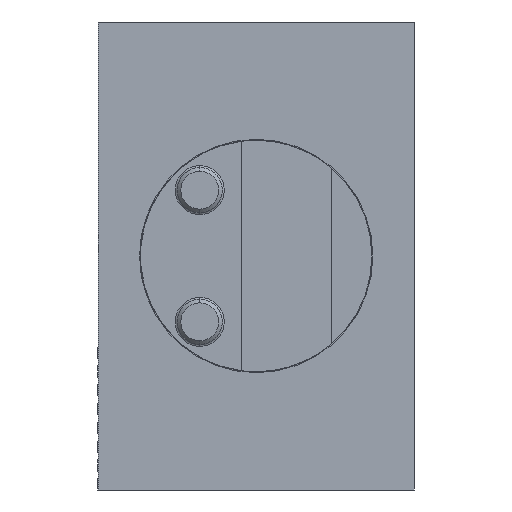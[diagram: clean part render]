
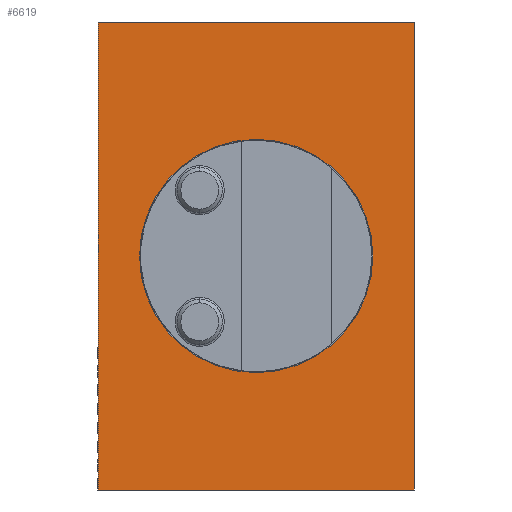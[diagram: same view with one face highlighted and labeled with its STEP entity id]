
A CAD part, front view. The second image highlights one B-rep face of the part: STEP entity #6619.
In plain terms, the highlighted planar face has unit normal (0, -1, 0).
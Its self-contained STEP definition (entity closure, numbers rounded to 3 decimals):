
#3750 = CIRCLE ( 'NONE', #3759, 31. ) ;
#3759 = AXIS2_PLACEMENT_3D ( 'NONE', #3842, #3994, #4045 ) ;
#3775 = DIRECTION ( 'NONE',  ( -1., 0., 0. ) ) ;
#3776 = VECTOR ( 'NONE', #3775, 1000. ) ;
#3777 = CARTESIAN_POINT ( 'NONE',  ( 42., -39.27, -62.2 ) ) ;
#3778 = LINE ( 'NONE', #3777, #3776 ) ;
#3785 = DIRECTION ( 'NONE',  ( 1., 0., 0. ) ) ;
#3786 = VECTOR ( 'NONE', #3785, 1000. ) ;
#3787 = CARTESIAN_POINT ( 'NONE',  ( 42., -39.27, 62.2 ) ) ;
#3788 = LINE ( 'NONE', #3787, #3786 ) ;
#3789 = CARTESIAN_POINT ( 'NONE',  ( 42., -39.27, 62.2 ) ) ;
#3797 = CARTESIAN_POINT ( 'NONE',  ( -31., -39.27, 0. ) ) ;
#3839 = DIRECTION ( 'NONE',  ( -1., 0., 0. ) ) ;
#3840 = DIRECTION ( 'NONE',  ( 0., 1., 0. ) ) ;
#3841 = AXIS2_PLACEMENT_3D ( 'NONE', #3843, #3840, #3839 ) ;
#3842 = CARTESIAN_POINT ( 'NONE',  ( 0., -39.27, 0. ) ) ;
#3843 = CARTESIAN_POINT ( 'NONE',  ( -42., -39.27, -62.2 ) ) ;
#3844 = PLANE ( 'NONE',  #3841 ) ;
#3845 = FACE_OUTER_BOUND ( 'NONE', #6624, .T. ) ;
#3846 = FACE_BOUND ( 'NONE', #6620, .T. ) ;
#3916 = CARTESIAN_POINT ( 'NONE',  ( 31., -39.27, 0. ) ) ;
#3917 = DIRECTION ( 'NONE',  ( -1., 0., 0. ) ) ;
#3918 = DIRECTION ( 'NONE',  ( 0., 1., 0. ) ) ;
#3919 = CARTESIAN_POINT ( 'NONE',  ( 0., -39.27, 0. ) ) ;
#3920 = AXIS2_PLACEMENT_3D ( 'NONE', #3919, #3918, #3917 ) ;
#3921 = CIRCLE ( 'NONE', #3920, 31. ) ;
#3994 = DIRECTION ( 'NONE',  ( 0., 1., 0. ) ) ;
#4045 = DIRECTION ( 'NONE',  ( -1., 0., 0. ) ) ;
#5922 = CARTESIAN_POINT ( 'NONE',  ( -42., -39.27, -62.2 ) ) ;
#5956 = CARTESIAN_POINT ( 'NONE',  ( 42., -39.27, -62.2 ) ) ;
#5957 = DIRECTION ( 'NONE',  ( 0., 0., -1. ) ) ;
#5958 = VECTOR ( 'NONE', #5957, 1000. ) ;
#5959 = CARTESIAN_POINT ( 'NONE',  ( 42., -39.27, -62.2 ) ) ;
#5963 = LINE ( 'NONE', #5959, #5958 ) ;
#6033 = CARTESIAN_POINT ( 'NONE',  ( -42., -39.27, 62.2 ) ) ;
#6034 = DIRECTION ( 'NONE',  ( 0., 0., 1. ) ) ;
#6035 = VECTOR ( 'NONE', #6034, 1000. ) ;
#6036 = CARTESIAN_POINT ( 'NONE',  ( -42., -39.27, -62.2 ) ) ;
#6037 = LINE ( 'NONE', #6036, #6035 ) ;
#6198 = EDGE_CURVE ( 'NONE', #6323, #6199, #6037, .T. ) ;
#6199 = VERTEX_POINT ( 'NONE', #6033 ) ;
#6323 = VERTEX_POINT ( 'NONE', #5922 ) ;
#6374 = EDGE_CURVE ( 'NONE', #6535, #6375, #5963, .T. ) ;
#6375 = VERTEX_POINT ( 'NONE', #5956 ) ;
#6489 = VERTEX_POINT ( 'NONE', #3797 ) ;
#6535 = VERTEX_POINT ( 'NONE', #3789 ) ;
#6536 = EDGE_CURVE ( 'NONE', #6199, #6535, #3788, .T. ) ;
#6539 = EDGE_CURVE ( 'NONE', #6375, #6323, #3778, .T. ) ;
#6579 = EDGE_CURVE ( 'NONE', #6580, #6489, #3921, .T. ) ;
#6580 = VERTEX_POINT ( 'NONE', #3916 ) ;
#6619 = ADVANCED_FACE ( 'NONE', ( #3846, #3845 ), #3844, .F. ) ;
#6620 = EDGE_LOOP ( 'NONE', ( #6621, #6623 ) ) ;
#6621 = ORIENTED_EDGE ( 'NONE', *, *, #6622, .T. ) ;
#6622 = EDGE_CURVE ( 'NONE', #6489, #6580, #3750, .T. ) ;
#6623 = ORIENTED_EDGE ( 'NONE', *, *, #6579, .T. ) ;
#6624 = EDGE_LOOP ( 'NONE', ( #6625, #6626, #6627, #6628 ) ) ;
#6625 = ORIENTED_EDGE ( 'NONE', *, *, #6539, .F. ) ;
#6626 = ORIENTED_EDGE ( 'NONE', *, *, #6374, .F. ) ;
#6627 = ORIENTED_EDGE ( 'NONE', *, *, #6536, .F. ) ;
#6628 = ORIENTED_EDGE ( 'NONE', *, *, #6198, .F. ) ;
